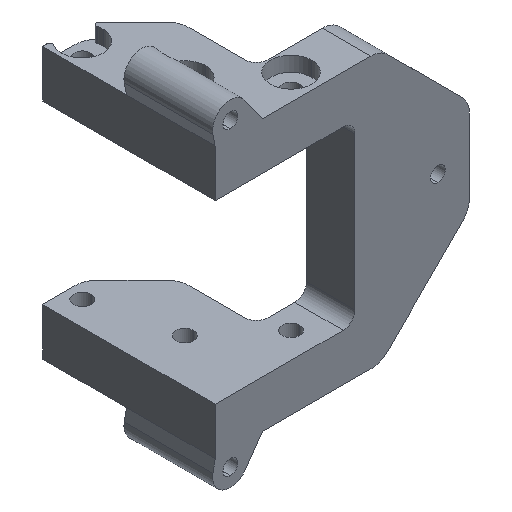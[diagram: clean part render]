
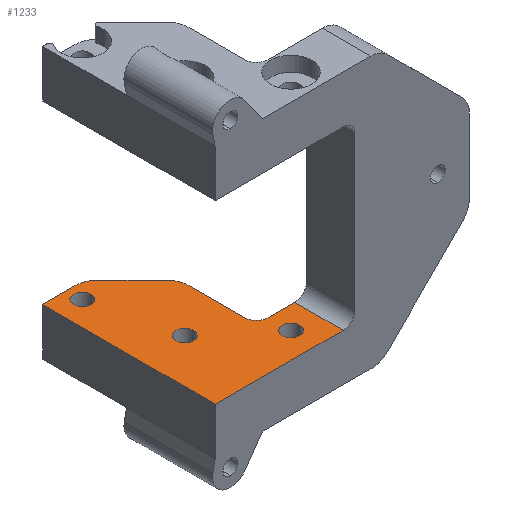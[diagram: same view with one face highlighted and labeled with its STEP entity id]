
A CAD part, isometric view. The second image highlights one B-rep face of the part: STEP entity #1233.
In plain terms, the highlighted planar face has unit normal (0, 0, 1).
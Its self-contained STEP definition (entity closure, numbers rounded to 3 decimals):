
#35 = DIRECTION ( 'NONE',  ( 0., 0., -1. ) ) ;
#49 = AXIS2_PLACEMENT_3D ( 'NONE', #1117, #2848, #2427 ) ;
#51 = DIRECTION ( 'NONE',  ( -1., 0., 0. ) ) ;
#60 = CARTESIAN_POINT ( 'NONE',  ( 60.077, -20.2, -29.6 ) ) ;
#89 = CARTESIAN_POINT ( 'NONE',  ( 67.548, -7.6, -29.6 ) ) ;
#130 = VERTEX_POINT ( 'NONE', #1065 ) ;
#136 = ORIENTED_EDGE ( 'NONE', *, *, #2225, .T. ) ;
#180 = DIRECTION ( 'NONE',  ( 0., 0., -1. ) ) ;
#204 = ORIENTED_EDGE ( 'NONE', *, *, #1736, .T. ) ;
#230 = DIRECTION ( 'NONE',  ( 0., -1., 0. ) ) ;
#252 = VECTOR ( 'NONE', #2639, 1000. ) ;
#270 = EDGE_LOOP ( 'NONE', ( #1234, #928 ) ) ;
#271 = DIRECTION ( 'NONE',  ( -1., 0., 0. ) ) ;
#283 = CARTESIAN_POINT ( 'NONE',  ( 77.218, -10., -29.6 ) ) ;
#286 = DIRECTION ( 'NONE',  ( -1., 0., 0. ) ) ;
#290 = CIRCLE ( 'NONE', #1544, 2. ) ;
#302 = EDGE_CURVE ( 'NONE', #2489, #1022, #2550, .T. ) ;
#304 = ORIENTED_EDGE ( 'NONE', *, *, #648, .T. ) ;
#307 = CARTESIAN_POINT ( 'NONE',  ( 60.077, -20.2, -29.6 ) ) ;
#359 = CARTESIAN_POINT ( 'NONE',  ( 75.218, -10., -29.6 ) ) ;
#365 = FACE_BOUND ( 'NONE', #1151, .T. ) ;
#367 = LINE ( 'NONE', #2429, #252 ) ;
#383 = DIRECTION ( 'NONE',  ( -1., 0., 0. ) ) ;
#403 = CIRCLE ( 'NONE', #908, 4. ) ;
#437 = ORIENTED_EDGE ( 'NONE', *, *, #2347, .F. ) ;
#444 = CIRCLE ( 'NONE', #1764, 1.5 ) ;
#495 = DIRECTION ( 'NONE',  ( 1., 0., 0. ) ) ;
#497 = ORIENTED_EDGE ( 'NONE', *, *, #302, .F. ) ;
#529 = CARTESIAN_POINT ( 'NONE',  ( 77.218, -12., -29.6 ) ) ;
#551 = CIRCLE ( 'NONE', #708, 1.5 ) ;
#566 = AXIS2_PLACEMENT_3D ( 'NONE', #2046, #2487, #51 ) ;
#588 = VECTOR ( 'NONE', #1240, 1000. ) ;
#648 = EDGE_CURVE ( 'NONE', #1236, #850, #290, .T. ) ;
#664 = ORIENTED_EDGE ( 'NONE', *, *, #2805, .T. ) ;
#669 = VERTEX_POINT ( 'NONE', #1752 ) ;
#699 = DIRECTION ( 'NONE',  ( 1., 0., 0. ) ) ;
#708 = AXIS2_PLACEMENT_3D ( 'NONE', #831, #2614, #383 ) ;
#712 = EDGE_CURVE ( 'NONE', #2730, #1425, #2786, .T. ) ;
#714 = LINE ( 'NONE', #1886, #588 ) ;
#732 = CARTESIAN_POINT ( 'NONE',  ( 75.218, -12., -29.6 ) ) ;
#747 = DIRECTION ( 'NONE',  ( 0., 0., 1. ) ) ;
#772 = VERTEX_POINT ( 'NONE', #994 ) ;
#777 = EDGE_CURVE ( 'NONE', #1326, #2489, #1380, .T. ) ;
#805 = VERTEX_POINT ( 'NONE', #1645 ) ;
#806 = CARTESIAN_POINT ( 'NONE',  ( 66.048, -7.6, -29.6 ) ) ;
#831 = CARTESIAN_POINT ( 'NONE',  ( 64.218, 6.4, -29.6 ) ) ;
#836 = CIRCLE ( 'NONE', #2613, 4. ) ;
#850 = VERTEX_POINT ( 'NONE', #359 ) ;
#864 = CIRCLE ( 'NONE', #49, 1.5 ) ;
#871 = ORIENTED_EDGE ( 'NONE', *, *, #2070, .T. ) ;
#880 = CARTESIAN_POINT ( 'NONE',  ( 71.218, -0.657, -29.6 ) ) ;
#908 = AXIS2_PLACEMENT_3D ( 'NONE', #880, #1115, #2182 ) ;
#928 = ORIENTED_EDGE ( 'NONE', *, *, #950, .T. ) ;
#933 = FACE_BOUND ( 'NONE', #270, .T. ) ;
#942 = CARTESIAN_POINT ( 'NONE',  ( 75.218, 1., -29.6 ) ) ;
#948 = DIRECTION ( 'NONE',  ( -1., 0., 0. ) ) ;
#950 = EDGE_CURVE ( 'NONE', #1710, #2862, #864, .T. ) ;
#994 = CARTESIAN_POINT ( 'NONE',  ( 81.718, -20.2, -29.6 ) ) ;
#1022 = VERTEX_POINT ( 'NONE', #1322 ) ;
#1037 = VECTOR ( 'NONE', #2304, 1000. ) ;
#1045 = EDGE_CURVE ( 'NONE', #805, #1092, #2231, .T. ) ;
#1065 = CARTESIAN_POINT ( 'NONE',  ( 81.718, -12., -29.6 ) ) ;
#1092 = VERTEX_POINT ( 'NONE', #2219 ) ;
#1115 = DIRECTION ( 'NONE',  ( 0., 0., 1. ) ) ;
#1117 = CARTESIAN_POINT ( 'NONE',  ( 64.218, 6.4, -29.6 ) ) ;
#1120 = CARTESIAN_POINT ( 'NONE',  ( 103.077, -20.2, -29.6 ) ) ;
#1125 = CARTESIAN_POINT ( 'NONE',  ( 62.718, 6.4, -29.6 ) ) ;
#1151 = EDGE_LOOP ( 'NONE', ( #204, #1283 ) ) ;
#1177 = VECTOR ( 'NONE', #230, 1000. ) ;
#1187 = DIRECTION ( 'NONE',  ( -1., 0., 0. ) ) ;
#1233 = ADVANCED_FACE ( 'NONE', ( #933, #365, #2409, #2645 ), #1607, .F. ) ;
#1234 = ORIENTED_EDGE ( 'NONE', *, *, #2013, .T. ) ;
#1236 = VERTEX_POINT ( 'NONE', #529 ) ;
#1240 = DIRECTION ( 'NONE',  ( 0.707, -0.707, 0. ) ) ;
#1274 = CARTESIAN_POINT ( 'NONE',  ( 74.047, 2.172, -29.6 ) ) ;
#1283 = ORIENTED_EDGE ( 'NONE', *, *, #712, .T. ) ;
#1322 = CARTESIAN_POINT ( 'NONE',  ( 65.561, 9., -29.6 ) ) ;
#1326 = VERTEX_POINT ( 'NONE', #60 ) ;
#1341 = VECTOR ( 'NONE', #495, 1000. ) ;
#1355 = VERTEX_POINT ( 'NONE', #1899 ) ;
#1379 = VECTOR ( 'NONE', #1780, 1000. ) ;
#1380 = LINE ( 'NONE', #307, #1037 ) ;
#1386 = DIRECTION ( 'NONE',  ( 0., 0., -1. ) ) ;
#1390 = ORIENTED_EDGE ( 'NONE', *, *, #777, .F. ) ;
#1395 = EDGE_CURVE ( 'NONE', #669, #1466, #714, .T. ) ;
#1419 = AXIS2_PLACEMENT_3D ( 'NONE', #2240, #1386, #948 ) ;
#1425 = VERTEX_POINT ( 'NONE', #806 ) ;
#1466 = VERTEX_POINT ( 'NONE', #1274 ) ;
#1544 = AXIS2_PLACEMENT_3D ( 'NONE', #283, #1822, #1187 ) ;
#1607 = PLANE ( 'NONE',  #566 ) ;
#1617 = LINE ( 'NONE', #1120, #1379 ) ;
#1627 = CARTESIAN_POINT ( 'NONE',  ( 65.561, 5., -29.6 ) ) ;
#1645 = CARTESIAN_POINT ( 'NONE',  ( 75.818, -15.8, -29.6 ) ) ;
#1710 = VERTEX_POINT ( 'NONE', #2026 ) ;
#1736 = EDGE_CURVE ( 'NONE', #1425, #2730, #2234, .T. ) ;
#1752 = CARTESIAN_POINT ( 'NONE',  ( 68.39, 7.828, -29.6 ) ) ;
#1764 = AXIS2_PLACEMENT_3D ( 'NONE', #2269, #35, #271 ) ;
#1780 = DIRECTION ( 'NONE',  ( -1., 0., 0. ) ) ;
#1802 = EDGE_LOOP ( 'NONE', ( #2290, #871, #1808, #304, #437, #664, #2829, #1955, #497, #1390 ) ) ;
#1808 = ORIENTED_EDGE ( 'NONE', *, *, #2215, .F. ) ;
#1822 = DIRECTION ( 'NONE',  ( 0., 0., -1. ) ) ;
#1827 = EDGE_CURVE ( 'NONE', #669, #1022, #836, .T. ) ;
#1854 = AXIS2_PLACEMENT_3D ( 'NONE', #2830, #180, #2186 ) ;
#1886 = CARTESIAN_POINT ( 'NONE',  ( 67.218, 9., -29.6 ) ) ;
#1899 = CARTESIAN_POINT ( 'NONE',  ( 75.218, -0.657, -29.6 ) ) ;
#1934 = VECTOR ( 'NONE', #699, 1000. ) ;
#1955 = ORIENTED_EDGE ( 'NONE', *, *, #1827, .T. ) ;
#2013 = EDGE_CURVE ( 'NONE', #2862, #1710, #551, .T. ) ;
#2026 = CARTESIAN_POINT ( 'NONE',  ( 65.718, 6.4, -29.6 ) ) ;
#2040 = ORIENTED_EDGE ( 'NONE', *, *, #1045, .T. ) ;
#2046 = CARTESIAN_POINT ( 'NONE',  ( 0., 0., -29.6 ) ) ;
#2052 = DIRECTION ( 'NONE',  ( 0., 0., -1. ) ) ;
#2068 = CARTESIAN_POINT ( 'NONE',  ( 60.077, 9., -29.6 ) ) ;
#2070 = EDGE_CURVE ( 'NONE', #772, #130, #367, .T. ) ;
#2092 = DIRECTION ( 'NONE',  ( -1., 0., 0. ) ) ;
#2151 = CARTESIAN_POINT ( 'NONE',  ( 69.048, -7.6, -29.6 ) ) ;
#2182 = DIRECTION ( 'NONE',  ( -1., 0., 0. ) ) ;
#2186 = DIRECTION ( 'NONE',  ( -1., 0., 0. ) ) ;
#2191 = EDGE_CURVE ( 'NONE', #772, #1326, #1617, .T. ) ;
#2215 = EDGE_CURVE ( 'NONE', #1236, #130, #2678, .T. ) ;
#2219 = CARTESIAN_POINT ( 'NONE',  ( 78.818, -15.8, -29.6 ) ) ;
#2225 = EDGE_CURVE ( 'NONE', #1092, #805, #444, .T. ) ;
#2231 = CIRCLE ( 'NONE', #1854, 1.5 ) ;
#2234 = CIRCLE ( 'NONE', #2810, 1.5 ) ;
#2240 = CARTESIAN_POINT ( 'NONE',  ( 67.548, -7.6, -29.6 ) ) ;
#2269 = CARTESIAN_POINT ( 'NONE',  ( 77.318, -15.8, -29.6 ) ) ;
#2290 = ORIENTED_EDGE ( 'NONE', *, *, #2191, .F. ) ;
#2304 = DIRECTION ( 'NONE',  ( 0., 1., 0. ) ) ;
#2347 = EDGE_CURVE ( 'NONE', #1355, #850, #2749, .T. ) ;
#2409 = FACE_BOUND ( 'NONE', #2540, .T. ) ;
#2427 = DIRECTION ( 'NONE',  ( -1., 0., 0. ) ) ;
#2429 = CARTESIAN_POINT ( 'NONE',  ( 81.718, -12., -29.6 ) ) ;
#2487 = DIRECTION ( 'NONE',  ( 0., 0., -1. ) ) ;
#2489 = VERTEX_POINT ( 'NONE', #2068 ) ;
#2540 = EDGE_LOOP ( 'NONE', ( #2040, #136 ) ) ;
#2550 = LINE ( 'NONE', #2689, #1934 ) ;
#2613 = AXIS2_PLACEMENT_3D ( 'NONE', #1627, #747, #286 ) ;
#2614 = DIRECTION ( 'NONE',  ( 0., 0., -1. ) ) ;
#2639 = DIRECTION ( 'NONE',  ( 0., 1., 0. ) ) ;
#2645 = FACE_OUTER_BOUND ( 'NONE', #1802, .T. ) ;
#2678 = LINE ( 'NONE', #732, #1341 ) ;
#2689 = CARTESIAN_POINT ( 'NONE',  ( 60.077, 9., -29.6 ) ) ;
#2730 = VERTEX_POINT ( 'NONE', #2151 ) ;
#2749 = LINE ( 'NONE', #942, #1177 ) ;
#2786 = CIRCLE ( 'NONE', #1419, 1.5 ) ;
#2805 = EDGE_CURVE ( 'NONE', #1355, #1466, #403, .T. ) ;
#2810 = AXIS2_PLACEMENT_3D ( 'NONE', #89, #2052, #2092 ) ;
#2829 = ORIENTED_EDGE ( 'NONE', *, *, #1395, .F. ) ;
#2830 = CARTESIAN_POINT ( 'NONE',  ( 77.318, -15.8, -29.6 ) ) ;
#2848 = DIRECTION ( 'NONE',  ( 0., 0., -1. ) ) ;
#2862 = VERTEX_POINT ( 'NONE', #1125 ) ;
